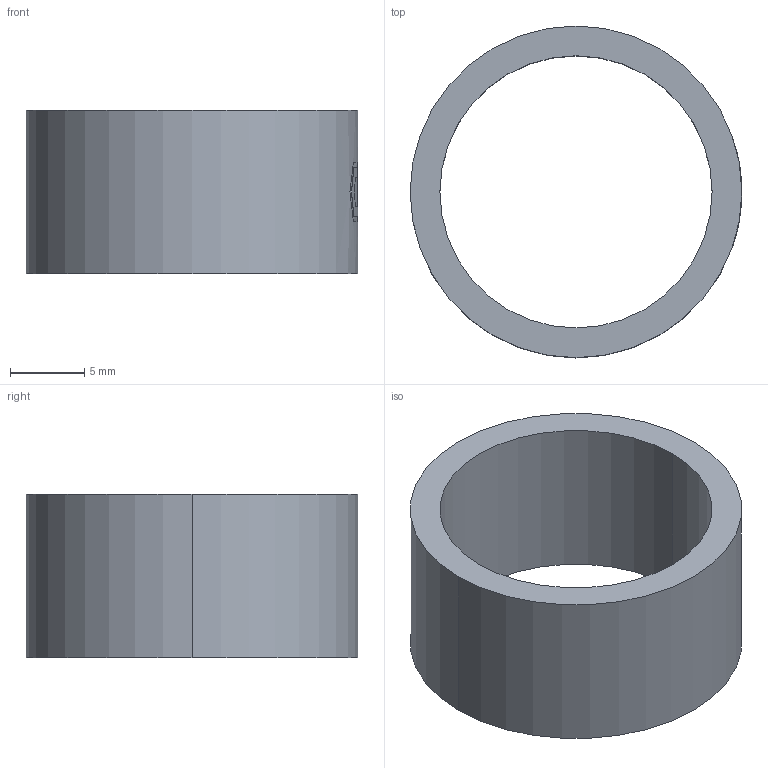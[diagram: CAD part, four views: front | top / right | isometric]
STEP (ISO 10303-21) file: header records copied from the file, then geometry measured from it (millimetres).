
FILE_DESCRIPTION (( 'STEP AP203' ), '1' );
FILE_NAME ('WJ-D 21.STEP', '2007-02-21T09:14:07', ( ' ' ), ( '' ), 'SwSTEP 2.0', 'SolidWorks 2005278', '' );
FILE_SCHEMA (( 'CONFIG_CONTROL_DESIGN' ));
Length unit declared in the file: millimetre
Products named in the file (1): WJ-D 21
Bounding box: 22.3 x 22.3 x 11 mm (x, y, z)
Volume: 1402.7 mm3; surface area: 1659.3 mm2
Topology: 1 solids, 1 shells, 43 faces, 117 edges, 78 vertices
Faces by surface type: plane 36, cylinder 7
Entity records: 1468 total; most frequent: CARTESIAN_POINT 299, ORIENTED_EDGE 234, DIRECTION 221, EDGE_CURVE 117, AXIS2_PLACEMENT_3D 80, VERTEX_POINT 78, LINE 61, VECTOR 61
